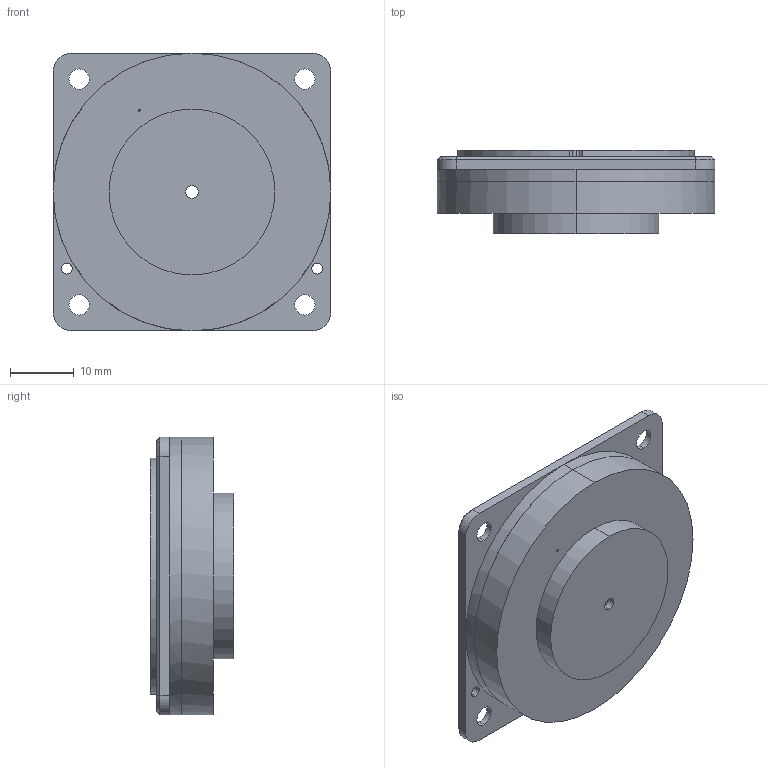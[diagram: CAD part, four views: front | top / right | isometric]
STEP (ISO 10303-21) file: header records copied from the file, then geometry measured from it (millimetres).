
FILE_DESCRIPTION((''),'2;1');
FILE_NAME('KDMG40008X-BOX-MED_ASM','2024-12-18T17:07:16',('lizhoupeng'),(''),'CREO PARAMETRIC BY PTC INC, 2020044','CREO PARAMETRIC BY PTC INC, 2020044','');
FILE_SCHEMA(('AUTOMOTIVE_DESIGN { 1 0 10303 214 1 1 1 1 }'));
Length unit declared in the file: millimetre
Products named in the file (3): KDMG40008X-BOX-MED1; KDMG40008X-BOX-MED2; KDMG40008X-BOX-MED_ASM
Assembly tree (2 placements, depth 2):
  KDMG40008X-BOX-MED_ASM
    KDMG40008X-BOX-MED1
    KDMG40008X-BOX-MED2
Bounding box: 43.5 x 13.05 x 43.5 mm (x, y, z)
Volume: 5386 mm3; surface area: 9379.3 mm2
Topology: 2 solids, 2 shells, 102 faces, 254 edges, 164 vertices
Faces by surface type: cylinder 51, plane 33, cone 18
Entity records: 3355 total; most frequent: DIRECTION 606, CARTESIAN_POINT 554, ORIENTED_EDGE 506, EDGE_CURVE 253, AXIS2_PLACEMENT_3D 246, VERTEX_POINT 162, CIRCLE 136, EDGE_LOOP 129
